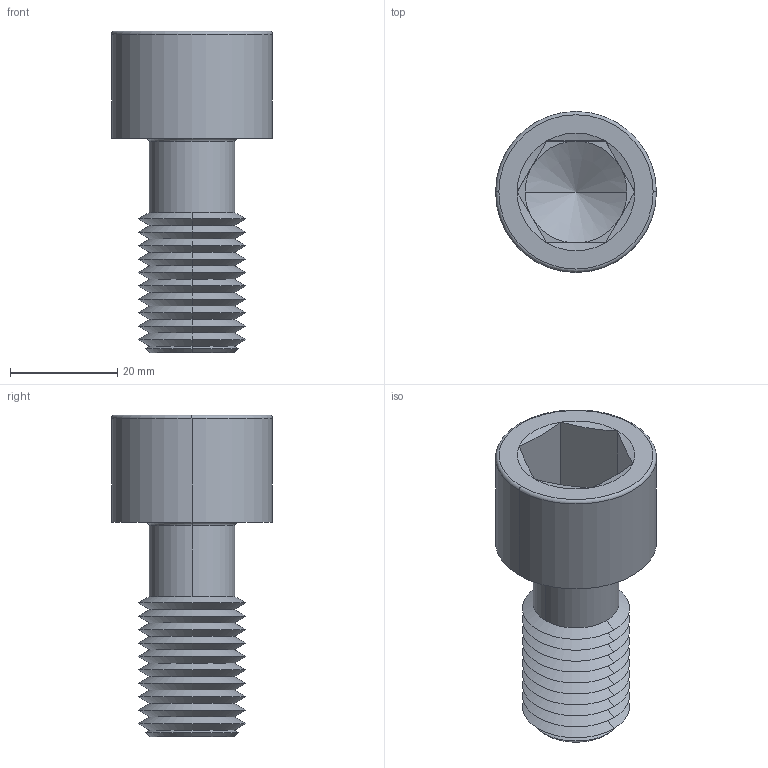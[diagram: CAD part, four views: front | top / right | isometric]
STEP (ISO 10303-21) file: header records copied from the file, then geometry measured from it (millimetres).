
FILE_DESCRIPTION (( 'STEP AP203' ), '1' );
FILE_NAME ('P0154.200-040-BL.step', '2024-06-17T11:39:49', ( '' ), ( '' ), 'SwSTEP 2.0', 'SolidWorks 2019', '' );
FILE_SCHEMA (( 'CONFIG_CONTROL_DESIGN' ));
Length unit declared in the file: millimetre
Products named in the file (1): P0154.200-040-BL
Bounding box: 30 x 30 x 60 mm (x, y, z)
Volume: 16973.2 mm3; surface area: 8126 mm2
Topology: 1 solids, 1 shells, 75 faces, 152 edges, 79 vertices
Faces by surface type: cone 52, plane 15, torus 4, cylinder 4
Entity records: 2011 total; most frequent: DIRECTION 372, CARTESIAN_POINT 355, ORIENTED_EDGE 300, AXIS2_PLACEMENT_3D 152, EDGE_CURVE 150, VERTEX_POINT 79, EDGE_LOOP 77, CIRCLE 76
